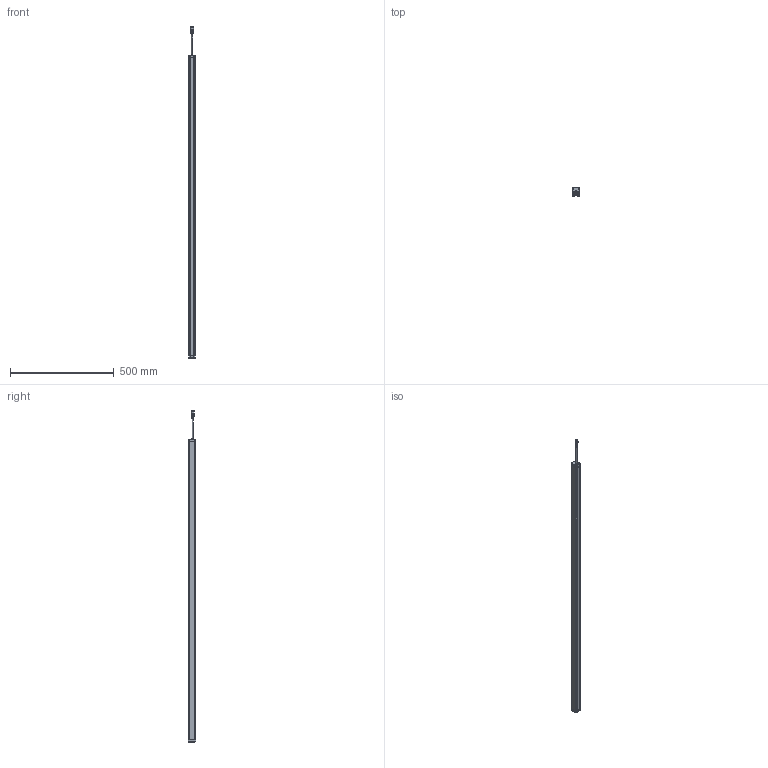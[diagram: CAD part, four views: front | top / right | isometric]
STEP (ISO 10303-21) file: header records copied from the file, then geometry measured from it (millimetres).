
FILE_DESCRIPTION((''),'2;1');
FILE_NAME('PRT0036','2026-03-31T13:48:43',('Administrator'),(''),'CREO PARAMETRIC BY PTC INC, 2016510','CREO PARAMETRIC BY PTC INC, 2016510','');
FILE_SCHEMA(('AUTOMOTIVE_DESIGN { 1 0 10303 214 1 1 1 1 }'));
Length unit declared in the file: millimetre
Products named in the file (1): PRT0036
Bounding box: 33 x 38 x 1601.9 mm (x, y, z)
Surface area: 317552.9 mm2 (no closed solid volume)
Topology: 0 solids, 12 shells, 803 faces, 2118 edges, 1338 vertices
Faces by surface type: plane 384, cylinder 229, extrusion 87, sphere 36, torus 35, cone 28, bspline 4
Entity records: 31532 total; most frequent: CARTESIAN_POINT 5948, ORIENTED_EDGE 4140, DIRECTION 3915, EDGE_CURVE 2070, VERTEX_POINT 1338, AXIS2_PLACEMENT_3D 1326, VECTOR 1263, LINE 1176
